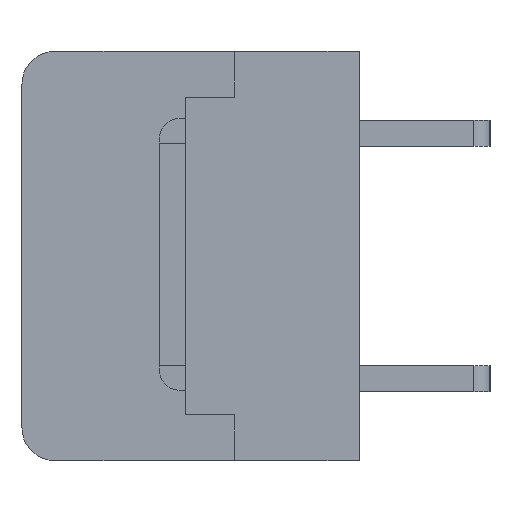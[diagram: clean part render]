
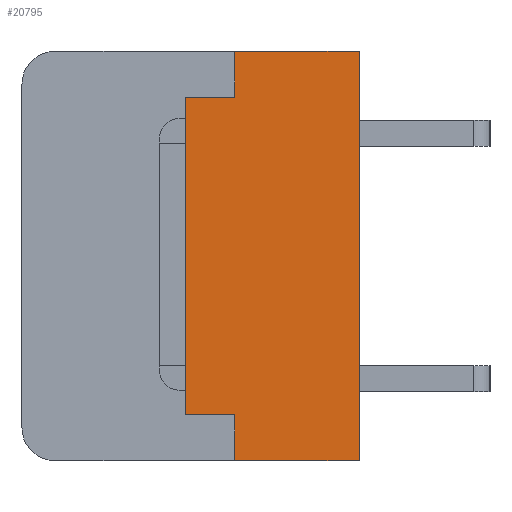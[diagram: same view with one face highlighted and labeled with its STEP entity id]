
A CAD part, left-side view. The second image highlights one B-rep face of the part: STEP entity #20795.
In plain terms, the highlighted planar face has unit normal (-1, 0, 0).
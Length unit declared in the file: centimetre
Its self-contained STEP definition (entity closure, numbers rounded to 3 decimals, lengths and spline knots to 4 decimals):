
#650=VECTOR('',#22926,1.);
#666=VECTOR('',#22942,1.);
#669=VECTOR('',#22946,1.);
#672=VECTOR('',#22950,1.);
#674=VECTOR('',#22953,1.);
#676=VECTOR('',#22956,1.);
#677=VECTOR('',#22957,1.);
#678=VECTOR('',#22958,1.);
#3050=LINE('',#27468,#650);
#3066=LINE('',#27499,#666);
#3069=LINE('',#27505,#669);
#3072=LINE('',#27511,#672);
#3074=LINE('',#27515,#674);
#3076=LINE('',#27519,#676);
#3077=LINE('',#27521,#677);
#3078=LINE('',#27523,#678);
#5559=VERTEX_POINT('',#27467);
#5560=VERTEX_POINT('',#27469);
#5574=VERTEX_POINT('',#27498);
#5576=VERTEX_POINT('',#27504);
#5578=VERTEX_POINT('',#27510);
#5580=VERTEX_POINT('',#27516);
#5581=VERTEX_POINT('',#27520);
#5582=VERTEX_POINT('',#27522);
#8174=EDGE_CURVE('',#5559,#5560,#3050,.T.);
#8190=EDGE_CURVE('',#5574,#5559,#3066,.T.);
#8193=EDGE_CURVE('',#5576,#5574,#3069,.T.);
#8196=EDGE_CURVE('',#5578,#5576,#3072,.T.);
#8198=EDGE_CURVE('',#5560,#5580,#3074,.T.);
#8200=EDGE_CURVE('',#5581,#5578,#3076,.T.);
#8201=EDGE_CURVE('',#5582,#5581,#3077,.T.);
#8202=EDGE_CURVE('',#5580,#5582,#3078,.T.);
#11509=ORIENTED_EDGE('',*,*,#8198,.F.);
#11510=ORIENTED_EDGE('',*,*,#8174,.F.);
#11511=ORIENTED_EDGE('',*,*,#8190,.F.);
#11512=ORIENTED_EDGE('',*,*,#8193,.F.);
#11513=ORIENTED_EDGE('',*,*,#8196,.F.);
#11514=ORIENTED_EDGE('',*,*,#8200,.F.);
#11515=ORIENTED_EDGE('',*,*,#8201,.F.);
#11516=ORIENTED_EDGE('',*,*,#8202,.F.);
#18089=EDGE_LOOP('',(#11509,#11510,#11511,#11512,#11513,#11514,#11515,#11516));
#19443=FACE_BOUND('',#18089,.T.);
#20795=ADVANCED_FACE('',(#19443),#22037,.F.);
#22037=PLANE('',#35420);
#22926=DIRECTION('',(0.,-1.,0.));
#22942=DIRECTION('',(0.,0.,1.));
#22946=DIRECTION('',(0.,1.,0.));
#22950=DIRECTION('',(0.,0.,1.));
#22953=DIRECTION('',(0.,0.,1.));
#22955=DIRECTION('',(1.,0.,0.));
#22956=DIRECTION('',(0.,1.,0.));
#22957=DIRECTION('',(0.,0.,-1.));
#22958=DIRECTION('',(0.,-1.,0.));
#27467=CARTESIAN_POINT('',(-1.382,0.53,0.485));
#27468=CARTESIAN_POINT('',(-1.382,0.53,0.485));
#27469=CARTESIAN_POINT('',(-1.382,0.38,0.485));
#27498=CARTESIAN_POINT('',(-1.382,0.53,-0.485));
#27499=CARTESIAN_POINT('',(-1.382,0.53,-0.485));
#27504=CARTESIAN_POINT('',(-1.382,0.38,-0.485));
#27505=CARTESIAN_POINT('',(-1.382,0.38,-0.485));
#27510=CARTESIAN_POINT('',(-1.382,0.38,-0.625));
#27511=CARTESIAN_POINT('',(-1.382,0.38,-0.625));
#27515=CARTESIAN_POINT('',(-1.382,0.38,0.485));
#27516=CARTESIAN_POINT('',(-1.382,0.38,0.625));
#27518=CARTESIAN_POINT('',(-1.382,0.2532,0.));
#27519=CARTESIAN_POINT('',(-1.382,0.,-0.625));
#27520=CARTESIAN_POINT('',(-1.382,0.,-0.625));
#27521=CARTESIAN_POINT('',(-1.382,0.,0.625));
#27522=CARTESIAN_POINT('',(-1.382,0.,0.625));
#27523=CARTESIAN_POINT('',(-1.382,0.38,0.625));
#35420=AXIS2_PLACEMENT_3D('',#27518,#22955,$);
